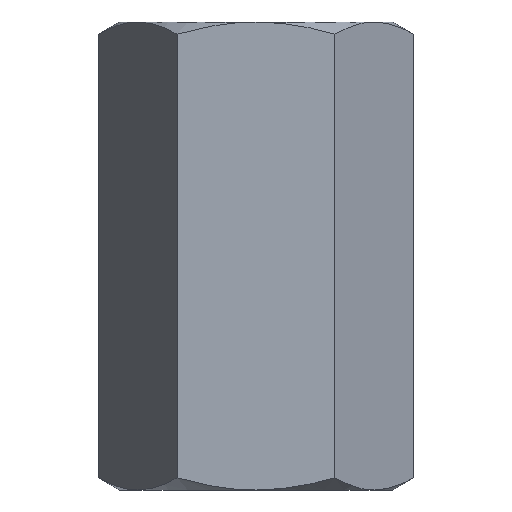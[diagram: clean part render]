
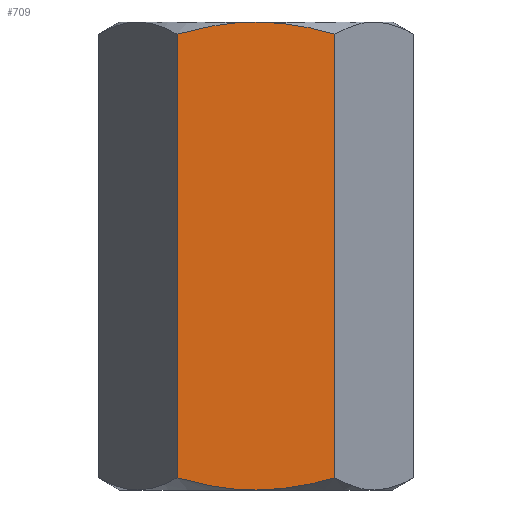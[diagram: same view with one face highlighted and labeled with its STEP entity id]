
A CAD part, front view. The second image highlights one B-rep face of the part: STEP entity #709.
In plain terms, the highlighted planar face has unit normal (0, -1, 0).
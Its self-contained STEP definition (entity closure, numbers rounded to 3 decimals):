
#6 = CARTESIAN_POINT ( 'NONE',  ( 0., -3.5, 6. ) ) ;
#13 = B_SPLINE_CURVE_WITH_KNOTS ( 'NONE', 3,
 ( #468, #456, #738, #401, #111, #55 ),
 .UNSPECIFIED., .F., .F.,
 ( 4, 2, 4 ),
 ( 0.009, 0.01, 0.011 ),
 .UNSPECIFIED. ) ;
#38 = B_SPLINE_CURVE_WITH_KNOTS ( 'NONE', 3,
 ( #523, #103, #788, #181, #454, #656 ),
 .UNSPECIFIED., .F., .F.,
 ( 4, 2, 4 ),
 ( 0.013, 0.014, 0.015 ),
 .UNSPECIFIED. ) ;
#55 = CARTESIAN_POINT ( 'NONE',  ( 2.021, -3.5, -5.687 ) ) ;
#56 = B_SPLINE_CURVE_WITH_KNOTS ( 'NONE', 3,
 ( #601, #333, #67, #688, #132, #200 ),
 .UNSPECIFIED., .F., .F.,
 ( 4, 2, 4 ),
 ( 0.007, 0.008, 0.009 ),
 .UNSPECIFIED. ) ;
#67 = CARTESIAN_POINT ( 'NONE',  ( -1.361, -3.5, -5.861 ) ) ;
#95 = VERTEX_POINT ( 'NONE', #522 ) ;
#103 = CARTESIAN_POINT ( 'NONE',  ( 0.343, -3.5, 6. ) ) ;
#105 = EDGE_CURVE ( 'NONE', #583, #607, #471, .T. ) ;
#111 = CARTESIAN_POINT ( 'NONE',  ( 1.693, -3.5, -5.782 ) ) ;
#132 = CARTESIAN_POINT ( 'NONE',  ( -0.339, -3.5, -6. ) ) ;
#156 = DIRECTION ( 'NONE',  ( 1., 0., 0. ) ) ;
#168 = CARTESIAN_POINT ( 'NONE',  ( -2.021, -3.5, -6. ) ) ;
#181 = CARTESIAN_POINT ( 'NONE',  ( 1.361, -3.5, 5.861 ) ) ;
#190 = ORIENTED_EDGE ( 'NONE', *, *, #198, .T. ) ;
#198 = EDGE_CURVE ( 'NONE', #664, #869, #13, .T. ) ;
#200 = CARTESIAN_POINT ( 'NONE',  ( 0., -3.5, -6. ) ) ;
#216 = LINE ( 'NONE', #698, #599 ) ;
#225 = PLANE ( 'NONE',  #347 ) ;
#235 = EDGE_CURVE ( 'NONE', #583, #664, #56, .T. ) ;
#241 = EDGE_LOOP ( 'NONE', ( #290, #673, #722, #190, #398, #768 ) ) ;
#264 = CARTESIAN_POINT ( 'NONE',  ( 2.021, -3.5, 5.687 ) ) ;
#277 = VERTEX_POINT ( 'NONE', #264 ) ;
#290 = ORIENTED_EDGE ( 'NONE', *, *, #424, .F. ) ;
#333 = CARTESIAN_POINT ( 'NONE',  ( -1.693, -3.5, -5.782 ) ) ;
#347 = AXIS2_PLACEMENT_3D ( 'NONE', #168, #499, #156 ) ;
#398 = ORIENTED_EDGE ( 'NONE', *, *, #457, .T. ) ;
#401 = CARTESIAN_POINT ( 'NONE',  ( 1.355, -3.5, -5.862 ) ) ;
#424 = EDGE_CURVE ( 'NONE', #607, #95, #597, .T. ) ;
#454 = CARTESIAN_POINT ( 'NONE',  ( 1.693, -3.5, 5.782 ) ) ;
#456 = CARTESIAN_POINT ( 'NONE',  ( 0.34, -3.5, -6. ) ) ;
#457 = EDGE_CURVE ( 'NONE', #869, #277, #216, .T. ) ;
#468 = CARTESIAN_POINT ( 'NONE',  ( 0., -3.5, -6. ) ) ;
#471 = LINE ( 'NONE', #799, #644 ) ;
#473 = CARTESIAN_POINT ( 'NONE',  ( -2.021, -3.5, 5.687 ) ) ;
#487 = CARTESIAN_POINT ( 'NONE',  ( -2.021, -3.5, 5.687 ) ) ;
#490 = CARTESIAN_POINT ( 'NONE',  ( -1.36, -3.5, 5.878 ) ) ;
#493 = CARTESIAN_POINT ( 'NONE',  ( -2.021, -3.5, -5.687 ) ) ;
#496 = CARTESIAN_POINT ( 'NONE',  ( 0., -3.5, -6. ) ) ;
#499 = DIRECTION ( 'NONE',  ( 0., -1., 0. ) ) ;
#522 = CARTESIAN_POINT ( 'NONE',  ( 0., -3.5, 6. ) ) ;
#523 = CARTESIAN_POINT ( 'NONE',  ( 0., -3.5, 6. ) ) ;
#583 = VERTEX_POINT ( 'NONE', #493 ) ;
#597 = B_SPLINE_CURVE_WITH_KNOTS ( 'NONE', 3,
 ( #487, #490, #811, #6 ),
 .UNSPECIFIED., .F., .F.,
 ( 4, 4 ),
 ( 0.011, 0.013 ),
 .UNSPECIFIED. ) ;
#599 = VECTOR ( 'NONE', #763, 1000. ) ;
#601 = CARTESIAN_POINT ( 'NONE',  ( -2.021, -3.5, -5.687 ) ) ;
#606 = DIRECTION ( 'NONE',  ( 0., 0., 1. ) ) ;
#607 = VERTEX_POINT ( 'NONE', #473 ) ;
#644 = VECTOR ( 'NONE', #606, 1000. ) ;
#656 = CARTESIAN_POINT ( 'NONE',  ( 2.021, -3.5, 5.687 ) ) ;
#658 = CARTESIAN_POINT ( 'NONE',  ( 2.021, -3.5, -5.687 ) ) ;
#664 = VERTEX_POINT ( 'NONE', #496 ) ;
#673 = ORIENTED_EDGE ( 'NONE', *, *, #105, .F. ) ;
#688 = CARTESIAN_POINT ( 'NONE',  ( -0.682, -3.5, -5.971 ) ) ;
#698 = CARTESIAN_POINT ( 'NONE',  ( 2.021, -3.5, -6. ) ) ;
#709 = ADVANCED_FACE ( 'NONE', ( #836 ), #225, .T. ) ;
#722 = ORIENTED_EDGE ( 'NONE', *, *, #235, .T. ) ;
#738 = CARTESIAN_POINT ( 'NONE',  ( 0.679, -3.5, -5.971 ) ) ;
#763 = DIRECTION ( 'NONE',  ( 0., 0., 1. ) ) ;
#768 = ORIENTED_EDGE ( 'NONE', *, *, #800, .F. ) ;
#788 = CARTESIAN_POINT ( 'NONE',  ( 0.688, -3.5, 5.97 ) ) ;
#799 = CARTESIAN_POINT ( 'NONE',  ( -2.021, -3.5, -6. ) ) ;
#800 = EDGE_CURVE ( 'NONE', #95, #277, #38, .T. ) ;
#811 = CARTESIAN_POINT ( 'NONE',  ( -0.689, -3.5, 6. ) ) ;
#836 = FACE_OUTER_BOUND ( 'NONE', #241, .T. ) ;
#869 = VERTEX_POINT ( 'NONE', #658 ) ;
